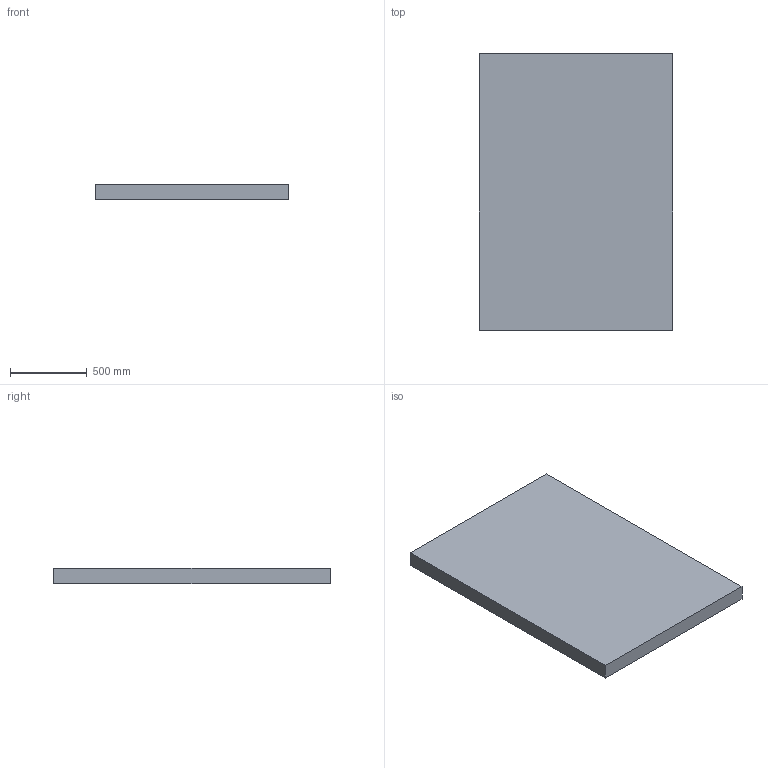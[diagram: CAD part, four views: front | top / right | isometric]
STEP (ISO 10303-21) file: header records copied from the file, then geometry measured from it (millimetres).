
FILE_DESCRIPTION (( 'STEP AP203' ), '1' );
FILE_NAME ('Mur droit.STEP', '2025-09-18T12:07:52', ( '' ), ( '' ), 'SwSTEP 2.0', 'SolidWorks 2019', '' );
FILE_SCHEMA (( 'CONFIG_CONTROL_DESIGN' ));
Length unit declared in the file: millimetre
Products named in the file (1): Mur droit
Bounding box: 1260 x 1800 x 100 mm (x, y, z)
Volume: 226800000 mm3; surface area: 5148000 mm2
Topology: 1 solids, 1 shells, 6 faces, 12 edges, 8 vertices
Faces by surface type: plane 6
Entity records: 233 total; most frequent: CARTESIAN_POINT 27, DIRECTION 26, ORIENTED_EDGE 24, EDGE_CURVE 12, LINE 12, VECTOR 12, PERSON_AND_ORGANIZATION 8, VERTEX_POINT 8
